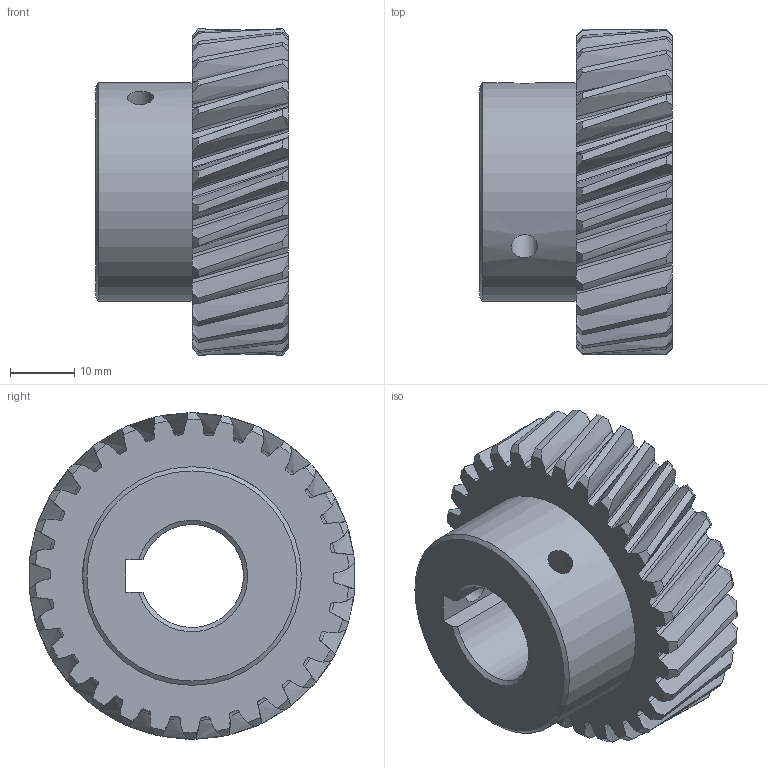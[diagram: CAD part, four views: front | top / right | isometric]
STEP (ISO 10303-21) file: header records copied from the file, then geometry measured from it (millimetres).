
FILE_DESCRIPTION(('STEP AP214'), '1');
FILE_NAME('GH1,5-T30D16 - Øåñòåðíÿ', '', ('UNSPECIFIED'), ('UNSPECIFIED'), 'ASCON STEP Converter 1.3', 'ASCON Math Kernel', '');
FILE_SCHEMA(('AUTOMOTIVE_DESIGN { 1 0 10303 214 3 1 1}'));
Length unit declared in the file: millimetre
Products named in the file (1): GH1,5-T30D16
Bounding box: 30 x 50.64 x 50.75 mm (x, y, z)
Volume: 33512.5 mm3; surface area: 10866.7 mm2
Topology: 1 solids, 1 shells, 313 faces, 930 edges, 621 vertices
Faces by surface type: bspline 180, cylinder 64, cone 63, plane 6
Full cylindrical faces by diameter (mm): 4.134 x2, 34 x1
Entity records: 21165 total; most frequent: CARTESIAN_POINT 11909, ORIENTED_EDGE 1850, EDGE_CURVE 925, B_SPLINE_CURVE_WITH_KNOTS 728, DIRECTION 654, VERTEX_POINT 619, EDGE_LOOP 324, AXIS2_PLACEMENT_3D 322
